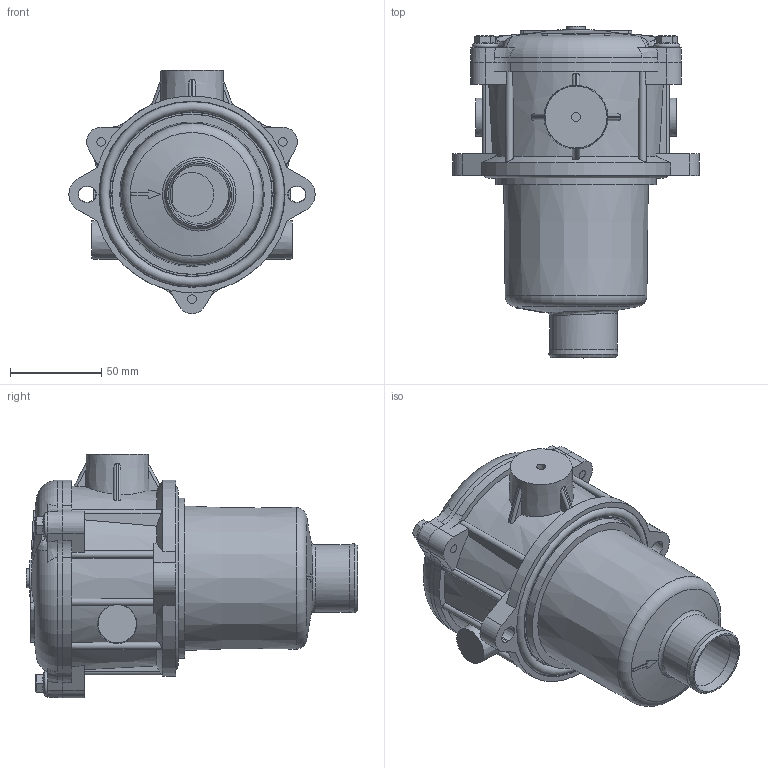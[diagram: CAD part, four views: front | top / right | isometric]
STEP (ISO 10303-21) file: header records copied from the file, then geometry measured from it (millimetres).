
FILE_DESCRIPTION((''),'2;1');
FILE_NAME('V:\Disegni-3D-Cliente\Filtri\Filtri sul Ritorno\MPF\MPF100-110\MPF_100_1_x_G2_xxx_x_x_P01_rev00.stp','2014-10-09T14:54:24',('cad10'),(''),'Autodesk Inventor 2013','Autodesk Inventor 2013','');
FILE_SCHEMA(('CONFIG_CONTROL_DESIGN'));
Length unit declared in the file: millimetre
Products named in the file (1): MPF_100_1_x_G1-2-4-5-7-8_xxx_x_x_P01_rev00
Bounding box: 135 x 182 x 133.5 mm (x, y, z)
Volume: 1029587 mm3; surface area: 86884.8 mm2
Topology: 1 solids, 1 shells, 260 faces, 705 edges, 464 vertices
Faces by surface type: plane 124, cone 59, cylinder 44, bspline 22, torus 10, sphere 1
Full cylindrical faces by diameter (mm): 5 x1, 9.5 x1, 24 x1, 32 x1, 37 x1
Entity records: 9816 total; most frequent: CARTESIAN_POINT 3677, ORIENTED_EDGE 1332, DIRECTION 1038, EDGE_CURVE 666, VERTEX_POINT 457, AXIS2_PLACEMENT_3D 418, EDGE_LOOP 314, STYLED_ITEM 261
